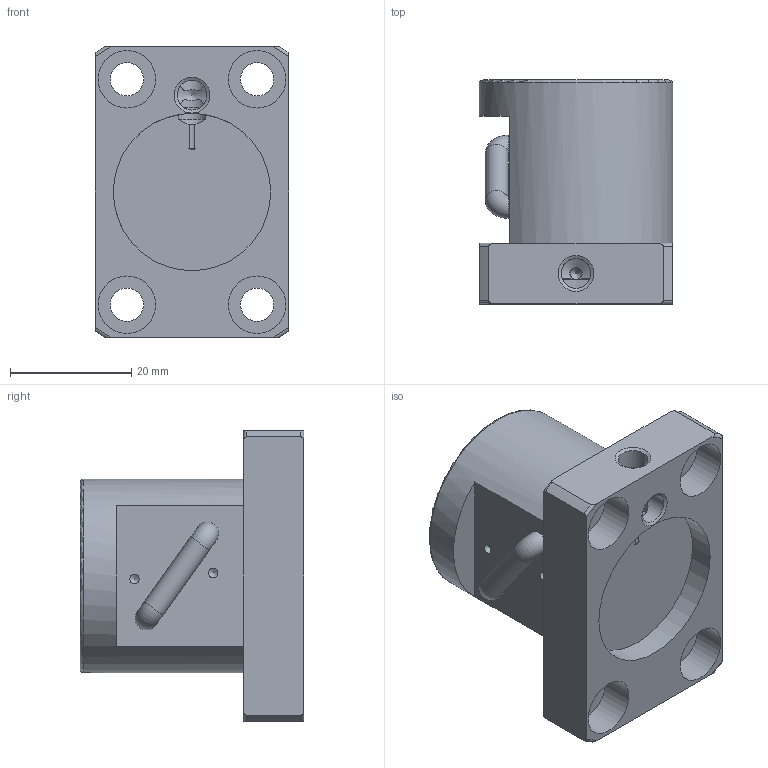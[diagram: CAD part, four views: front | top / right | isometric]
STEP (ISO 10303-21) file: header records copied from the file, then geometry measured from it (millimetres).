
FILE_DESCRIPTION(/* description */ ('Unknown'),/* implementation_level */ '2;1');
FILE_NAME(/* name */ '1504',/* time_stamp */ '2020-11-06T17:15:27+08:00',/* author */ ('Unknown'),/* organization */ ('Unknown'),/* preprocessor_version */ 'ST-DEVELOPER v16.7',/* originating_system */ 'DEX',/* authorisation */ $);
FILE_SCHEMA (('AUTOMOTIVE_DESIGN {1 0 10303 214 3 1 1}'));
Length unit declared in the file: millimetre
Products named in the file (1): 1504
Bounding box: 32 x 37 x 48 mm (x, y, z)
Volume: 28979.6 mm3; surface area: 9310 mm2
Topology: 1 solids, 1 shells, 62 faces, 168 edges, 110 vertices
Faces by surface type: cylinder 29, plane 15, torus 11, cone 7
Full cylindrical faces by diameter (mm): 1.567 x2, 3.8 x3, 4.917 x3, 5.5 x4, 9.5 x4, 26 x2, 32 x1
Entity records: 3144 total; most frequent: CARTESIAN_POINT 1290, DIRECTION 301, ORIENTED_EDGE 244, AXIS2_PLACEMENT_3D 138, EDGE_CURVE 122, FACE_BOUND 110, EDGE_LOOP 106, VERTEX_POINT 96
